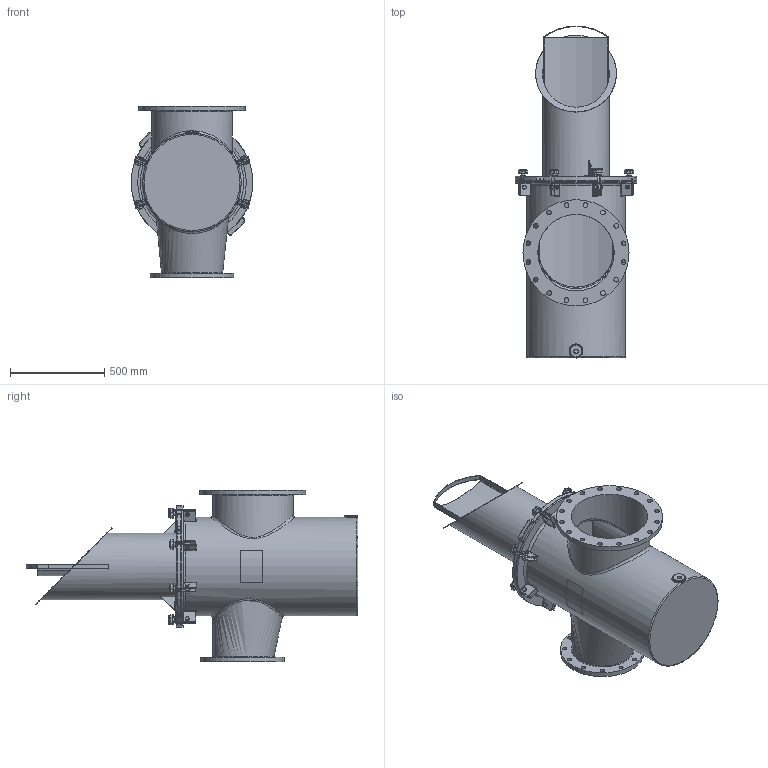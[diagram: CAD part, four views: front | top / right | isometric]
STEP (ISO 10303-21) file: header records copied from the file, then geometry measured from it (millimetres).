
FILE_DESCRIPTION(/* description */ ('400MM X 300MM FIBERGLASS STRAINER BODY'),/* implementation_level */ '2;1');
FILE_NAME(/* name */ 'C:\Users\r.kommineni.ext\Desktop\NB\CAD\Workspace\FG Reducing Strainer\Guardian FG Reducing H&L Strainer (Metric)_CLEARANCE VOLUME\STRAINER H&L 400MM X 300MM.stp',/* time_stamp */ '2017-06-09T13:32:27-04:00',/* author */ ('r.kommineni.ext'),/* organization */ (''),/* preprocessor_version */ 'ST-DEVELOPER v16.1',/* originating_system */ 'Autodesk Inventor 2016',/* authorisation */ '');
FILE_SCHEMA (('CONFIG_CONTROL_DESIGN'));
Length unit declared in the file: inch
Products named in the file (25): NBFGBODY16X12MM; 150NBCVR22R2; 150NBGSK20R1; Perforated Basket 20in; Bride (Ring) 20in; Baffle 20in; Handle 20in; Bottom Strainer 20in; BRACESTRCVR20_Welds; BRACE (BASE) FOR 20 BODY; BRACE (PROJ) FOR 20 BODY; Bumper; BRACESTRCVR20; Nut- 1_2  UNC; Bolt-1_2 x 1 1_2  UNC; EyeBolt; Washer; Knob M10; Securing Assembly For FG  with Brace; Securing Assembly For FG without Brace; Label for 20.625 inch (Right); Label for 20.625 inch (Left); NBBSK14T316_clearance; NBBSK16T316_clearance; STRAINER H&L 400MM X 300MM
Assembly tree (40 placements, depth 3):
  STRAINER H&L 400MM X 300MM
    NBFGBODY16X12MM
    150NBCVR22R2
    150NBGSK20R1
    NBBSK16T316_clearance
      Perforated Basket 20in
      Bride (Ring) 20in
      Baffle 20in
      Handle 20in
      Bottom Strainer 20in
      NBBSK14T316_clearance
    BRACESTRCVR20
      BRACESTRCVR20_Welds
      BRACE (BASE) FOR 20 BODY
      BRACE (PROJ) FOR 20 BODY
      Bumper  x6
    Securing Assembly For FG  with Brace  x2
      Nut- 1_2  UNC
      Bolt-1_2 x 1 1_2  UNC
      EyeBolt
      Washer
      Knob M10
    Securing Assembly For FG without Brace  x6
      Nut- 1_2  UNC
      Bolt-1_2 x 1 1_2  UNC
      EyeBolt
      Washer
      Knob M10
    Label for 20.625 inch (Right)
    Label for 20.625 inch (Left)
Bounding box: 647.7 x 1765.3 x 914.4 mm (x, y, z)
Volume: 34560099.6 mm3; surface area: 9631560.3 mm2
Topology: 68 solids, 71 shells, 1879 faces, 4324 edges, 2571 vertices
Faces by surface type: cylinder 699, plane 528, cone 184, torus 170, sphere 158, bspline 140
Full cylindrical faces by diameter (mm): 3.175 x11, 6.35 x2, 8.382 x8, 9.525 x16, 10.592 x8, 12.7 x8, 15.875 x16, 19 x16, 19.05 x8, 22.098 x12, 22.809 x1, 25.4 x16, 31.75 x8, 68.263 x1, 355.6 x1, 403.225 x2, 406.4 x2, 408.94 x1, 428.625 x1, 444.5 x1, 508 x2, 511.175 x1, 514.35 x1, 523.875 x1, 563.88 x1, 577.85 x1, 584.2 x1
Entity records: 39961 total; most frequent: CARTESIAN_POINT 15310, DIRECTION 5070, ORIENTED_EDGE 4651, EDGE_CURVE 2350, AXIS2_PLACEMENT_3D 2053, VERTEX_POINT 1486, EDGE_LOOP 1267, ADVANCED_FACE 1029
